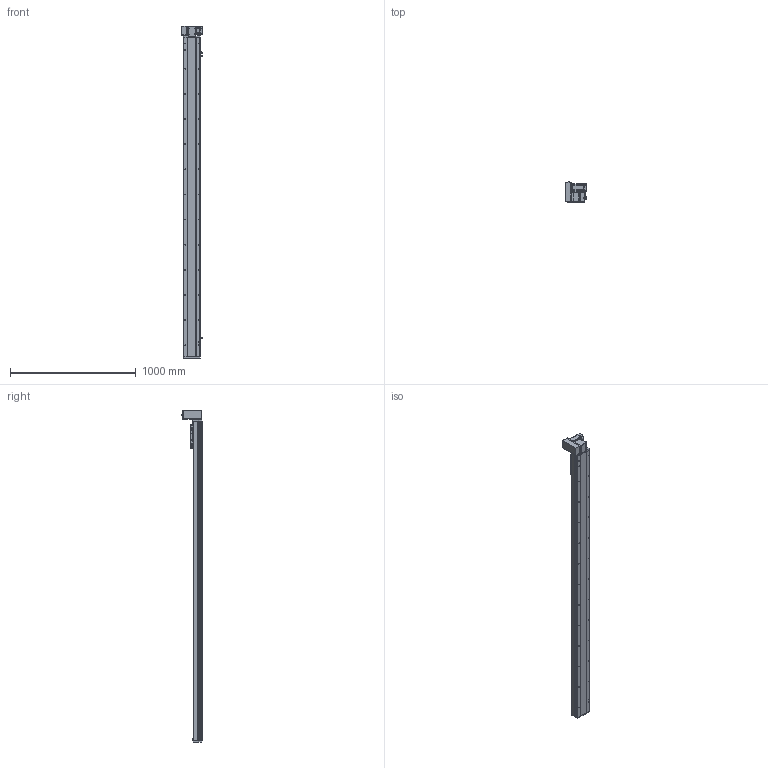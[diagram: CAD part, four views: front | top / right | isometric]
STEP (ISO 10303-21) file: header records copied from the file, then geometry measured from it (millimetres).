
FILE_DESCRIPTION (( 'STEP AP214' ), '1' );
FILE_NAME ('TPE14-L40-2250-LU-T40-C4.STEP', '2023-04-13T02:35:49', ( '' ), ( '' ), 'SwSTEP 2.0', 'SolidWorks 2020', '' );
FILE_SCHEMA (( 'AUTOMOTIVE_DESIGN' ));
Length unit declared in the file: millimetre
Products named in the file (10): 葩璃 pm-t65-672^TPE14-L40-LU-T40-C4; 葩璃 詩湍75^TPE14-L40-LU-T40-C4; 葩璃 TPE14-L-007 々湍釱MZ-169x88^TPE14-L40-LU-T40-C4_YCB14; 葩璃 TPE14 賑雄殤^TPE14-L40-LU-T40-C4; 葩璃 TPE14-L-001 菁釱MZ-135-01^TPE14-L40-LU-T40-C4; hexagon head bolts-full thread gb_GB_FASTENER_BOLT_STBAB A M5X16-N; 葩璃 侂狟400W^TPE14-L40-LU-T40-C4; 葩璃 TPE14-L-002 耜裔ZTMZ-135-04^TPE14-L40-LU-T40-C4; 葩璃 TPT14-L-009 萇儂啣^TPE14-L40-LU-T40-C4_400W; TPE14-L40-2250-LU-T40-C4
Assembly tree (12 placements, depth 2):
  TPE14-L40-2250-LU-T40-C4
    葩璃 TPE14-L-001 菁釱MZ-135-01^TPE14-L40-LU-T40-C4
    葩璃 TPE14-L-002 耜裔ZTMZ-135-04^TPE14-L40-LU-T40-C4  x2
    葩璃 詩湍75^TPE14-L40-LU-T40-C4
    葩璃 TPE14-L-007 々湍釱MZ-169x88^TPE14-L40-LU-T40-C4_YCB14
    葩璃 TPT14-L-009 萇儂啣^TPE14-L40-LU-T40-C4_400W
    葩璃 TPE14 賑雄殤^TPE14-L40-LU-T40-C4
    葩璃 pm-t65-672^TPE14-L40-LU-T40-C4  x3
    葩璃 侂狟400W^TPE14-L40-LU-T40-C4
    hexagon head bolts-full thread gb_GB_FASTENER_BOLT_STBAB A M5X16-N
Bounding box: 172.5 x 160.85 x 2640.5 mm (x, y, z)
Volume: 13109018.3 mm3; surface area: 2469813.6 mm2
Topology: 23 solids, 23 shells, 1460 faces, 3787 edges, 2390 vertices
Faces by surface type: plane 823, cylinder 445, cone 158, bspline 34
Entity records: 39107 total; most frequent: CARTESIAN_POINT 7558, DIRECTION 6248, ORIENTED_EDGE 6018, EDGE_CURVE 3009, AXIS2_PLACEMENT_3D 2134, VECTOR 1980, LINE 1980, VERTEX_POINT 1938
